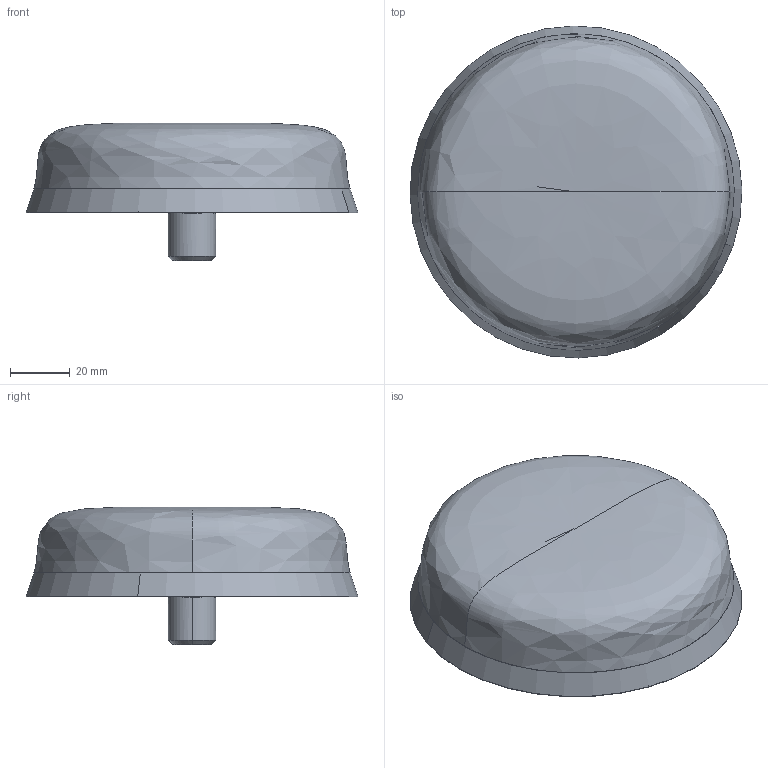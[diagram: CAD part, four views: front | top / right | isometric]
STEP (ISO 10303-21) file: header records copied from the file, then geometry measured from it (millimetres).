
FILE_DESCRIPTION (( 'STEP AP203' ), '1' );
FILE_NAME ('Gehaeuse98-2017-12-18-zugebaut-L17.STEP', '2017-12-18T09:09:41', ( 'user' ), ( '' ), 'SwSTEP 2.0', 'SolidWorks 2015', '' );
FILE_SCHEMA (( 'CONFIG_CONTROL_DESIGN' ));
Length unit declared in the file: millimetre
Products named in the file (1): Gehaeuse98-2017-12-18-zugebaut-L17
Bounding box: 111.55 x 111.55 x 46.27 mm (x, y, z)
Volume: 237202.1 mm3; surface area: 27928.8 mm2
Topology: 1 solids, 1 shells, 45 faces, 102 edges, 65 vertices
Faces by surface type: plane 19, cone 16, cylinder 4, torus 4, bspline 2
Entity records: 1579 total; most frequent: CARTESIAN_POINT 479, DIRECTION 226, ORIENTED_EDGE 200, EDGE_CURVE 100, AXIS2_PLACEMENT_3D 92, VERTEX_POINT 65, EDGE_LOOP 53, CIRCLE 48
